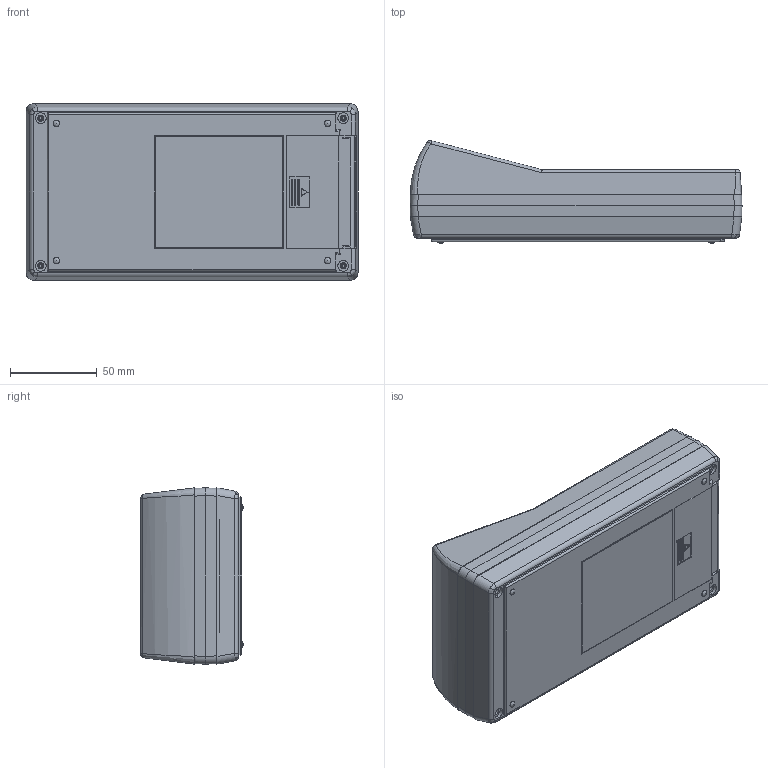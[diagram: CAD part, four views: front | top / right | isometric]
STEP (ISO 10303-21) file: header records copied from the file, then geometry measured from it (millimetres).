
FILE_DESCRIPTION (( 'STEP AP214' ), '1' );
FILE_NAME ('90-51-2A-E-R.STEP', '2019-12-01T17:10:47', ( 'Rudy' ), ( '' ), 'SwSTEP 2.0', 'SolidWorks 2014', '' );
FILE_SCHEMA (( 'AUTOMOTIVE_DESIGN' ));
Length unit declared in the file: millimetre
Products named in the file (6): 100-06 EXPANDER; 2AAdoor; 100 bessel; 100 Top Angled LCD; 100-01 BOT-2AA; 90-51-2A-E-R
Assembly tree (5 placements, depth 2):
  90-51-2A-E-R
    100-01 BOT-2AA
    100 Top Angled LCD
    100 bessel
    2AAdoor
    100-06 EXPANDER
Bounding box: 191 x 59.13 x 101.4 mm (x, y, z)
Volume: 151014.2 mm3; surface area: 148394.1 mm2
Topology: 5 solids, 5 shells, 838 faces, 2240 edges, 1437 vertices
Faces by surface type: plane 555, cylinder 203, cone 40, bspline 24, torus 12, sphere 4
Entity records: 27222 total; most frequent: CARTESIAN_POINT 6482, ORIENTED_EDGE 4444, DIRECTION 3997, EDGE_CURVE 2222, VECTOR 1655, LINE 1655, VERTEX_POINT 1429, AXIS2_PLACEMENT_3D 1171
